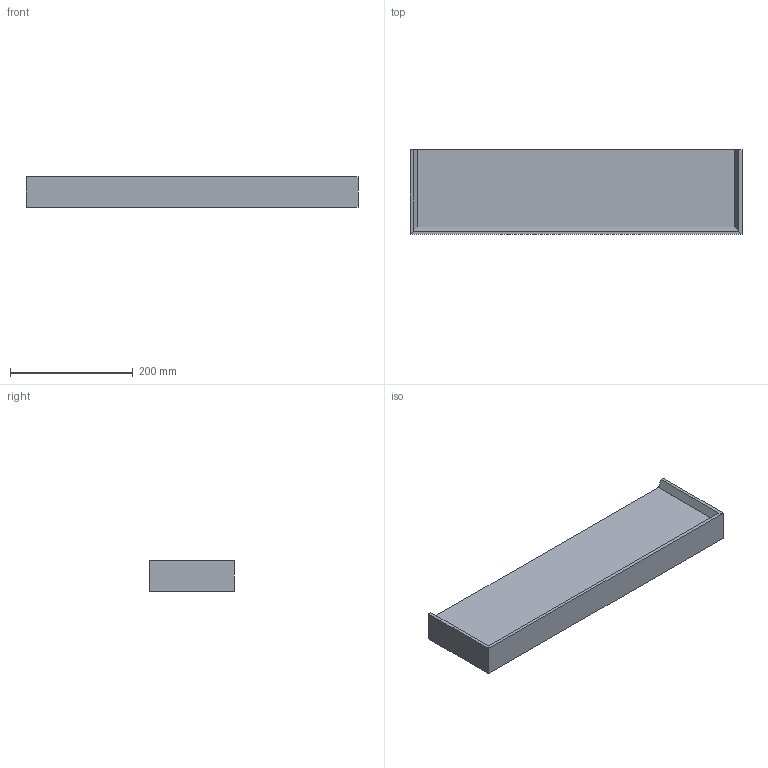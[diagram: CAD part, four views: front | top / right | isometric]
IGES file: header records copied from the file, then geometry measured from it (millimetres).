
Start section: Data from Parasolid IGES Translator 22.0.50, Copyright(c) 2006 Siemens P LM Software. All Rights Reserved.
Global section: file name: noorth-haus-H 5 D 13 W 54_4282.igs; native system: By Siemens PLM Incorporated; preprocessor: XPlus GENERIC/IGES 22.0.50; author: Noname; organization: Noname; date: 20251207.160002; units: metre
Bounding box: 540 x 138 x 50 mm (x, y, z)
Volume: 1223082.8 mm3; surface area: 244124.7 mm2
Topology: 4 solids, 4 shells, 27 faces, 57 edges, 38 vertices
Faces by surface type: plane 27
